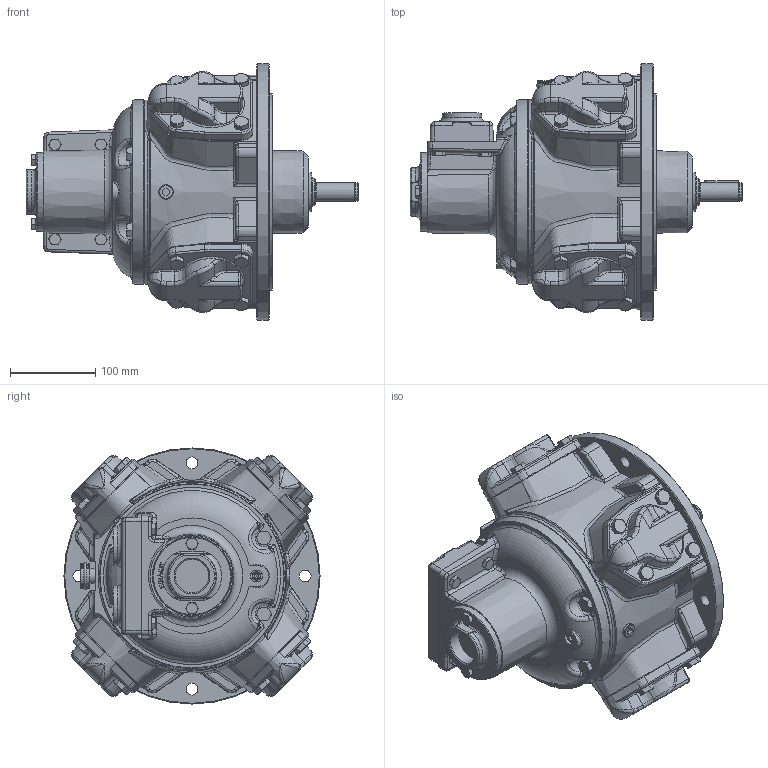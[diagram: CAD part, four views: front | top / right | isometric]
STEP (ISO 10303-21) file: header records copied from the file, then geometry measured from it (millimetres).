
FILE_DESCRIPTION (( 'STEP AP214' ), '1' );
FILE_NAME ('RM310.STEP', '2022-06-21T13:13:29', ( '' ), ( '' ), 'SwSTEP 2.0', 'SolidWorks 2020', '' );
FILE_SCHEMA (( 'AUTOMOTIVE_DESIGN' ));
Length unit declared in the file: millimetre
Products named in the file (1): RM310
Bounding box: 388.95 x 300 x 300 mm (x, y, z)
Volume: 10939093 mm3; surface area: 416314.9 mm2
Topology: 1 solids, 1 shells, 2096 faces, 5193 edges, 3123 vertices
Faces by surface type: plane 918, bspline 393, cylinder 343, cone 317, torus 116, sphere 9
Full cylindrical faces by diameter (mm): 1.9 x2, 9 x1, 9.728 x2, 10.5 x1, 13 x6, 14 x6, 16 x20, 19.5 x8, 21 x8, 22 x1, 30.5 x2, 32.05 x1, 39.5 x1, 45 x1, 46.94 x1, 47.04 x1, 62.69 x1, 215.9 x1, 229.965 x1, 300 x1
Entity records: 95679 total; most frequent: CARTESIAN_POINT 48639, ORIENTED_EDGE 9894, DIRECTION 8344, EDGE_CURVE 4947, AXIS2_PLACEMENT_3D 3198, VERTEX_POINT 3059, EDGE_LOOP 2312, FACE_OUTER_BOUND 2172
